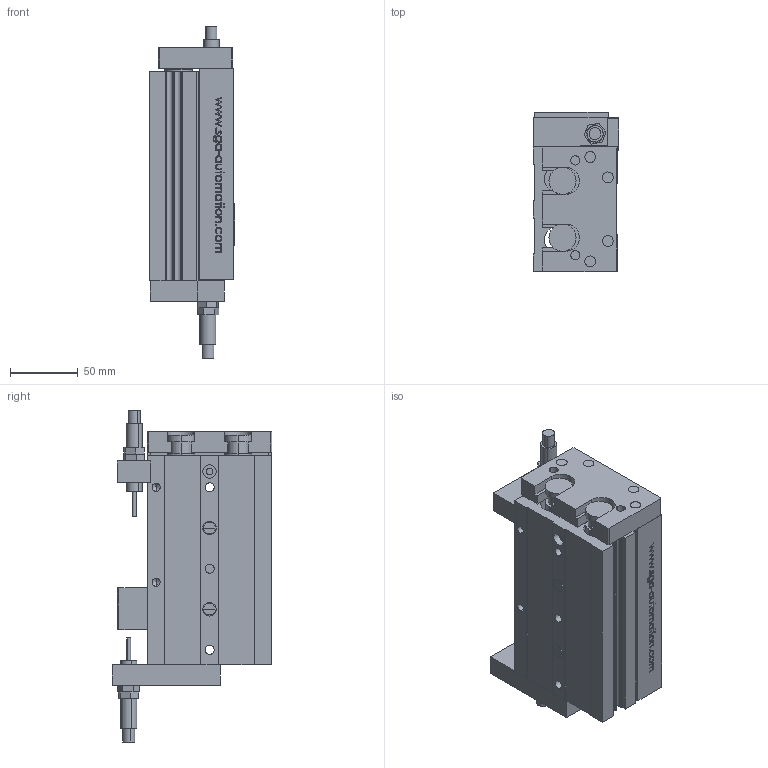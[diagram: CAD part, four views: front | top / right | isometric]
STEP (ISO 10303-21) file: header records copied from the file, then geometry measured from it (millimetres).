
FILE_DESCRIPTION (( 'STEP AP203' ), '1' );
FILE_NAME ('GDX25-75.STEP', '2013-02-28T10:49:29', ( 'Conseil Régional Haute-Normandie' ), ( 'Conseil Régional Haute-Normandie' ), 'SwSTEP 2.0', 'SolidWorks 2010', '' );
FILE_SCHEMA (( 'CONFIG_CONTROL_DESIGN' ));
Length unit declared in the file: millimetre
Products named in the file (18): Pièce1 GDX25-10_Default; Pièce2 GDX25-75_Default; Pièce10 GDX25-10_Default; GDX25-75; Pièce1 GDX25-75_Default; Pièce3_Default; Pièce4 GDX25-75_Default; Pièce5 GDX25-75_Default; Pièce5 GDX25-10_Default; Pièce2 GDX25-10 Vis pièce1_Default; Pièce3 GDX25-10_Default; Pièce4 GDX25-10_Default; Pièce6 boulon GDX25-10_Default; Pièce7 amortisseur GDX25-10_Default; Pièce8 tige amortisseur GDX25-10_Default; Pièce11 GDX25-10_Default; Pièce16 GDX 25-10_Default; Pièce17 GDX 25-10_Default
Assembly tree (35 placements, depth 2):
  GDX25-75
    Pièce2 GDX25-75_Default
    Pièce17 GDX 25-10_Default  x8
    Pièce1 GDX25-75_Default
    Pièce10 GDX25-10_Default  x2
    Pièce1 GDX25-10_Default
    Pièce4 GDX25-10_Default
    Pièce16 GDX 25-10_Default  x4
    Pièce6 boulon GDX25-10_Default  x4
    Pièce5 GDX25-10_Default
    Pièce8 tige amortisseur GDX25-10_Default  x2
    Pièce4 GDX25-75_Default
    Pièce5 GDX25-75_Default
    Pièce2 GDX25-10 Vis pièce1_Default  x2
    Pièce11 GDX25-10_Default  x2
    Pièce3 GDX25-10_Default
    Pièce7 amortisseur GDX25-10_Default  x2
    Pièce3_Default
Bounding box: 63.09 x 118 x 245.07 mm (x, y, z)
Volume: 854223.8 mm3; surface area: 215587.8 mm2
Topology: 37 solids, 37 shells, 868 faces, 2158 edges, 1391 vertices
Faces by surface type: plane 423, cylinder 244, bspline 133, cone 64, torus 4
Entity records: 34741 total; most frequent: CARTESIAN_POINT 15359, ORIENTED_EDGE 3650, DIRECTION 3139, EDGE_CURVE 1825, VERTEX_POINT 1203, LINE 1169, VECTOR 1169, AXIS2_PLACEMENT_3D 985
